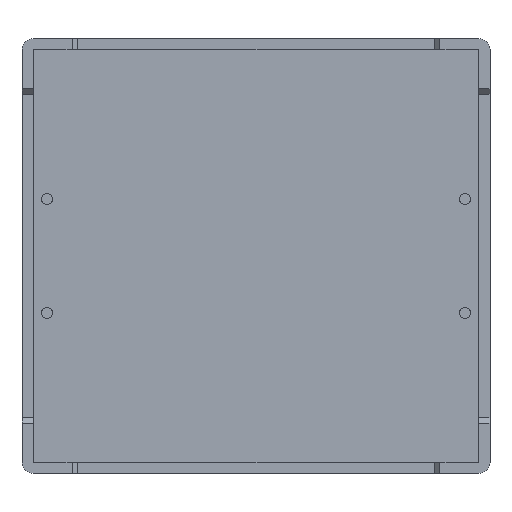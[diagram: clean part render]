
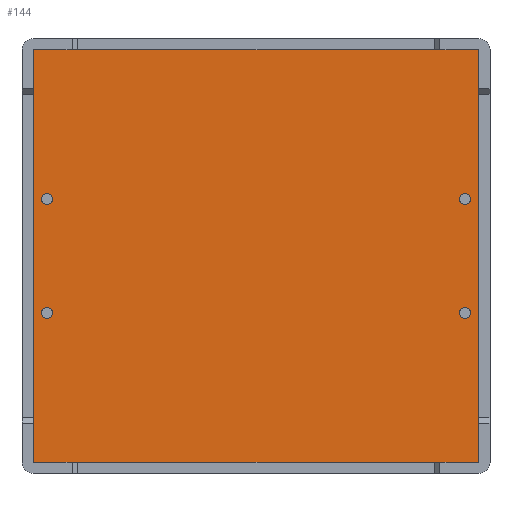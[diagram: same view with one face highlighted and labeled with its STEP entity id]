
A CAD part, front view. The second image highlights one B-rep face of the part: STEP entity #144.
In plain terms, the highlighted planar face has unit normal (0, -1, 0).
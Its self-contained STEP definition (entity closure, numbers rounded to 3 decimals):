
#24 = VERTEX_POINT ( 'NONE', #2975 ) ;
#27 = CARTESIAN_POINT ( 'NONE',  ( 19.9, 1., -18.5 ) ) ;
#54 = EDGE_CURVE ( 'NONE', #2985, #2885, #683, .T. ) ;
#104 = EDGE_CURVE ( 'NONE', #3105, #2879, #397, .T. ) ;
#142 = VERTEX_POINT ( 'NONE', #1045 ) ;
#144 = ADVANCED_FACE ( 'NONE', ( #299, #193, #209, #201, #173 ), #994, .T. ) ;
#166 = CARTESIAN_POINT ( 'NONE',  ( -20., 1., 18.4 ) ) ;
#173 = FACE_OUTER_BOUND ( 'NONE', #1414, .T. ) ;
#176 = EDGE_CURVE ( 'NONE', #3241, #3038, #4250, .T. ) ;
#188 = VERTEX_POINT ( 'NONE', #2545 ) ;
#193 = FACE_BOUND ( 'NONE', #1387, .T. ) ;
#201 = FACE_BOUND ( 'NONE', #1460, .T. ) ;
#209 = FACE_BOUND ( 'NONE', #1465, .T. ) ;
#220 = EDGE_CURVE ( 'NONE', #3363, #2494, #3347, .T. ) ;
#248 = EDGE_CURVE ( 'NONE', #4458, #4292, #2556, .T. ) ;
#255 = EDGE_CURVE ( 'NONE', #142, #24, #2493, .T. ) ;
#263 = EDGE_CURVE ( 'NONE', #4431, #4266, #2430, .T. ) ;
#276 = EDGE_CURVE ( 'NONE', #4266, #4431, #2272, .T. ) ;
#284 = EDGE_CURVE ( 'NONE', #188, #4410, #2032, .T. ) ;
#290 = EDGE_CURVE ( 'NONE', #2494, #3241, #2057, .T. ) ;
#299 = FACE_BOUND ( 'NONE', #1423, .T. ) ;
#300 = EDGE_CURVE ( 'NONE', #3038, #3105, #1985, .T. ) ;
#301 = EDGE_CURVE ( 'NONE', #2879, #2985, #1872, .T. ) ;
#307 = EDGE_CURVE ( 'NONE', #2885, #3363, #1787, .T. ) ;
#327 = CARTESIAN_POINT ( 'NONE',  ( 18.75, 1., 4.6 ) ) ;
#382 = DIRECTION ( 'NONE',  ( 0., 0., -1. ) ) ;
#392 = CARTESIAN_POINT ( 'NONE',  ( -20., 1., -18.4 ) ) ;
#397 = LINE ( 'NONE', #1532, #426 ) ;
#426 = VECTOR ( 'NONE', #1525, 1000. ) ;
#439 = AXIS2_PLACEMENT_3D ( 'NONE', #3062, #1895, #741 ) ;
#557 = DIRECTION ( 'NONE',  ( 0., 0., -1. ) ) ;
#559 = DIRECTION ( 'NONE',  ( 0., 0., -1. ) ) ;
#570 = DIRECTION ( 'NONE',  ( 0., -1., 0. ) ) ;
#635 = CARTESIAN_POINT ( 'NONE',  ( 18.75, 1., -5.1 ) ) ;
#673 = VECTOR ( 'NONE', #2613, 1000. ) ;
#683 = LINE ( 'NONE', #2623, #673 ) ;
#702 = DIRECTION ( 'NONE',  ( 0., -1., 0. ) ) ;
#741 = DIRECTION ( 'NONE',  ( 0., 0., -1. ) ) ;
#822 = CARTESIAN_POINT ( 'NONE',  ( -18.75, 1., -5.1 ) ) ;
#974 = DIRECTION ( 'NONE',  ( 0., 0., -1. ) ) ;
#994 = PLANE ( 'NONE',  #4142 ) ;
#1016 = DIRECTION ( 'NONE',  ( 0., -1., 0. ) ) ;
#1045 = CARTESIAN_POINT ( 'NONE',  ( 18.75, 1., -4.6 ) ) ;
#1053 = CARTESIAN_POINT ( 'NONE',  ( 0., 1., 0. ) ) ;
#1119 = DIRECTION ( 'NONE',  ( 0., 0., -1. ) ) ;
#1135 = DIRECTION ( 'NONE',  ( 0., -1., 0. ) ) ;
#1137 = CARTESIAN_POINT ( 'NONE',  ( 18.75, 1., 5.1 ) ) ;
#1180 = AXIS2_PLACEMENT_3D ( 'NONE', #3452, #3365, #3343 ) ;
#1197 = DIRECTION ( 'NONE',  ( 0., -1., 0. ) ) ;
#1354 = EDGE_CURVE ( 'NONE', #4410, #188, #3803, .T. ) ;
#1387 = EDGE_LOOP ( 'NONE', ( #4189, #4199 ) ) ;
#1414 = EDGE_LOOP ( 'NONE', ( #4245, #4285, #4303, #4312, #4316, #4338, #4352, #4367 ) ) ;
#1423 = EDGE_LOOP ( 'NONE', ( #4176, #4185 ) ) ;
#1460 = EDGE_LOOP ( 'NONE', ( #4227, #4240 ) ) ;
#1465 = EDGE_LOOP ( 'NONE', ( #4206, #4209 ) ) ;
#1505 = AXIS2_PLACEMENT_3D ( 'NONE', #4143, #2277, #4426 ) ;
#1525 = DIRECTION ( 'NONE',  ( 0., 0., 1. ) ) ;
#1531 = DIRECTION ( 'NONE',  ( 0., 0., -1. ) ) ;
#1532 = CARTESIAN_POINT ( 'NONE',  ( 20., 1., -18.5 ) ) ;
#1538 = DIRECTION ( 'NONE',  ( 0., -1., 0. ) ) ;
#1667 = AXIS2_PLACEMENT_3D ( 'NONE', #3286, #3258, #3252 ) ;
#1742 = DIRECTION ( 'NONE',  ( 0., -1., 0. ) ) ;
#1787 = CIRCLE ( 'NONE', #2125, 0.1 ) ;
#1806 = CARTESIAN_POINT ( 'NONE',  ( -19.9, 1., 18.4 ) ) ;
#1872 = CIRCLE ( 'NONE', #1667, 0.1 ) ;
#1895 = DIRECTION ( 'NONE',  ( 0., -1., 0. ) ) ;
#1940 = CARTESIAN_POINT ( 'NONE',  ( -18.75, 1., 5.6 ) ) ;
#1978 = CIRCLE ( 'NONE', #2073, 0.5 ) ;
#1985 = CIRCLE ( 'NONE', #1180, 0.1 ) ;
#1998 = CARTESIAN_POINT ( 'NONE',  ( -19.9, 1., 18.5 ) ) ;
#2018 = CARTESIAN_POINT ( 'NONE',  ( 19.9, 1., 18.5 ) ) ;
#2032 = CIRCLE ( 'NONE', #3732, 0.5 ) ;
#2057 = CIRCLE ( 'NONE', #4315, 0.1 ) ;
#2063 = EDGE_CURVE ( 'NONE', #4292, #4458, #3879, .T. ) ;
#2073 = AXIS2_PLACEMENT_3D ( 'NONE', #4427, #2620, #382 ) ;
#2125 = AXIS2_PLACEMENT_3D ( 'NONE', #1806, #1538, #1531 ) ;
#2272 = CIRCLE ( 'NONE', #2693, 0.5 ) ;
#2277 = DIRECTION ( 'NONE',  ( 0., -1., 0. ) ) ;
#2430 = CIRCLE ( 'NONE', #439, 0.5 ) ;
#2442 = DIRECTION ( 'NONE',  ( 1., 0., 0. ) ) ;
#2443 = DIRECTION ( 'NONE',  ( 0., 0., -1. ) ) ;
#2493 = CIRCLE ( 'NONE', #4188, 0.5 ) ;
#2494 = VERTEX_POINT ( 'NONE', #392 ) ;
#2528 = DIRECTION ( 'NONE',  ( 0., -1., 0. ) ) ;
#2545 = CARTESIAN_POINT ( 'NONE',  ( -18.75, 1., -4.6 ) ) ;
#2556 = CIRCLE ( 'NONE', #3806, 0.5 ) ;
#2597 = CARTESIAN_POINT ( 'NONE',  ( -18.75, 1., 5.1 ) ) ;
#2613 = DIRECTION ( 'NONE',  ( -1., 0., 0. ) ) ;
#2620 = DIRECTION ( 'NONE',  ( 0., -1., 0. ) ) ;
#2623 = CARTESIAN_POINT ( 'NONE',  ( 20., 1., 18.5 ) ) ;
#2693 = AXIS2_PLACEMENT_3D ( 'NONE', #2597, #2528, #2443 ) ;
#2698 = CARTESIAN_POINT ( 'NONE',  ( -20., 1., -18.5 ) ) ;
#2866 = DIRECTION ( 'NONE',  ( 0., 0., -1. ) ) ;
#2879 = VERTEX_POINT ( 'NONE', #3934 ) ;
#2885 = VERTEX_POINT ( 'NONE', #1998 ) ;
#2975 = CARTESIAN_POINT ( 'NONE',  ( 18.75, 1., -5.6 ) ) ;
#2985 = VERTEX_POINT ( 'NONE', #2018 ) ;
#3038 = VERTEX_POINT ( 'NONE', #27 ) ;
#3062 = CARTESIAN_POINT ( 'NONE',  ( -18.75, 1., 5.1 ) ) ;
#3088 = CARTESIAN_POINT ( 'NONE',  ( -19.9, 1., -18.5 ) ) ;
#3105 = VERTEX_POINT ( 'NONE', #3965 ) ;
#3202 = DIRECTION ( 'NONE',  ( 0., 0., -1. ) ) ;
#3220 = CARTESIAN_POINT ( 'NONE',  ( -20., 1., 18.5 ) ) ;
#3241 = VERTEX_POINT ( 'NONE', #3088 ) ;
#3252 = DIRECTION ( 'NONE',  ( 0., 0., -1. ) ) ;
#3258 = DIRECTION ( 'NONE',  ( 0., -1., 0. ) ) ;
#3286 = CARTESIAN_POINT ( 'NONE',  ( 19.9, 1., 18.4 ) ) ;
#3307 = CARTESIAN_POINT ( 'NONE',  ( 18.75, 1., 5.6 ) ) ;
#3343 = DIRECTION ( 'NONE',  ( 0., 0., -1. ) ) ;
#3347 = LINE ( 'NONE', #3220, #3871 ) ;
#3363 = VERTEX_POINT ( 'NONE', #166 ) ;
#3365 = DIRECTION ( 'NONE',  ( 0., -1., 0. ) ) ;
#3452 = CARTESIAN_POINT ( 'NONE',  ( 19.9, 1., -18.4 ) ) ;
#3499 = AXIS2_PLACEMENT_3D ( 'NONE', #3713, #1742, #4015 ) ;
#3526 = CARTESIAN_POINT ( 'NONE',  ( -18.75, 1., 4.6 ) ) ;
#3713 = CARTESIAN_POINT ( 'NONE',  ( 18.75, 1., 5.1 ) ) ;
#3732 = AXIS2_PLACEMENT_3D ( 'NONE', #822, #702, #557 ) ;
#3803 = CIRCLE ( 'NONE', #1505, 0.5 ) ;
#3806 = AXIS2_PLACEMENT_3D ( 'NONE', #1137, #1135, #1119 ) ;
#3871 = VECTOR ( 'NONE', #3202, 1000. ) ;
#3879 = CIRCLE ( 'NONE', #3499, 0.5 ) ;
#3934 = CARTESIAN_POINT ( 'NONE',  ( 20., 1., 18.4 ) ) ;
#3965 = CARTESIAN_POINT ( 'NONE',  ( 20., 1., -18.4 ) ) ;
#4015 = DIRECTION ( 'NONE',  ( 0., 0., -1. ) ) ;
#4142 = AXIS2_PLACEMENT_3D ( 'NONE', #1053, #1016, #974 ) ;
#4143 = CARTESIAN_POINT ( 'NONE',  ( -18.75, 1., -5.1 ) ) ;
#4153 = CARTESIAN_POINT ( 'NONE',  ( -18.75, 1., -5.6 ) ) ;
#4176 = ORIENTED_EDGE ( 'NONE', *, *, #248, .F. ) ;
#4185 = ORIENTED_EDGE ( 'NONE', *, *, #2063, .F. ) ;
#4188 = AXIS2_PLACEMENT_3D ( 'NONE', #635, #570, #559 ) ;
#4189 = ORIENTED_EDGE ( 'NONE', *, *, #255, .F. ) ;
#4199 = ORIENTED_EDGE ( 'NONE', *, *, #4360, .F. ) ;
#4206 = ORIENTED_EDGE ( 'NONE', *, *, #263, .F. ) ;
#4209 = ORIENTED_EDGE ( 'NONE', *, *, #276, .F. ) ;
#4227 = ORIENTED_EDGE ( 'NONE', *, *, #284, .F. ) ;
#4240 = ORIENTED_EDGE ( 'NONE', *, *, #1354, .F. ) ;
#4245 = ORIENTED_EDGE ( 'NONE', *, *, #220, .T. ) ;
#4250 = LINE ( 'NONE', #2698, #4279 ) ;
#4266 = VERTEX_POINT ( 'NONE', #3526 ) ;
#4279 = VECTOR ( 'NONE', #2442, 1000. ) ;
#4285 = ORIENTED_EDGE ( 'NONE', *, *, #290, .T. ) ;
#4292 = VERTEX_POINT ( 'NONE', #327 ) ;
#4303 = ORIENTED_EDGE ( 'NONE', *, *, #176, .T. ) ;
#4312 = ORIENTED_EDGE ( 'NONE', *, *, #300, .T. ) ;
#4315 = AXIS2_PLACEMENT_3D ( 'NONE', #4424, #1197, #2866 ) ;
#4316 = ORIENTED_EDGE ( 'NONE', *, *, #104, .T. ) ;
#4338 = ORIENTED_EDGE ( 'NONE', *, *, #301, .T. ) ;
#4352 = ORIENTED_EDGE ( 'NONE', *, *, #54, .T. ) ;
#4360 = EDGE_CURVE ( 'NONE', #24, #142, #1978, .T. ) ;
#4367 = ORIENTED_EDGE ( 'NONE', *, *, #307, .T. ) ;
#4410 = VERTEX_POINT ( 'NONE', #4153 ) ;
#4424 = CARTESIAN_POINT ( 'NONE',  ( -19.9, 1., -18.4 ) ) ;
#4426 = DIRECTION ( 'NONE',  ( 0., 0., -1. ) ) ;
#4427 = CARTESIAN_POINT ( 'NONE',  ( 18.75, 1., -5.1 ) ) ;
#4431 = VERTEX_POINT ( 'NONE', #1940 ) ;
#4458 = VERTEX_POINT ( 'NONE', #3307 ) ;
